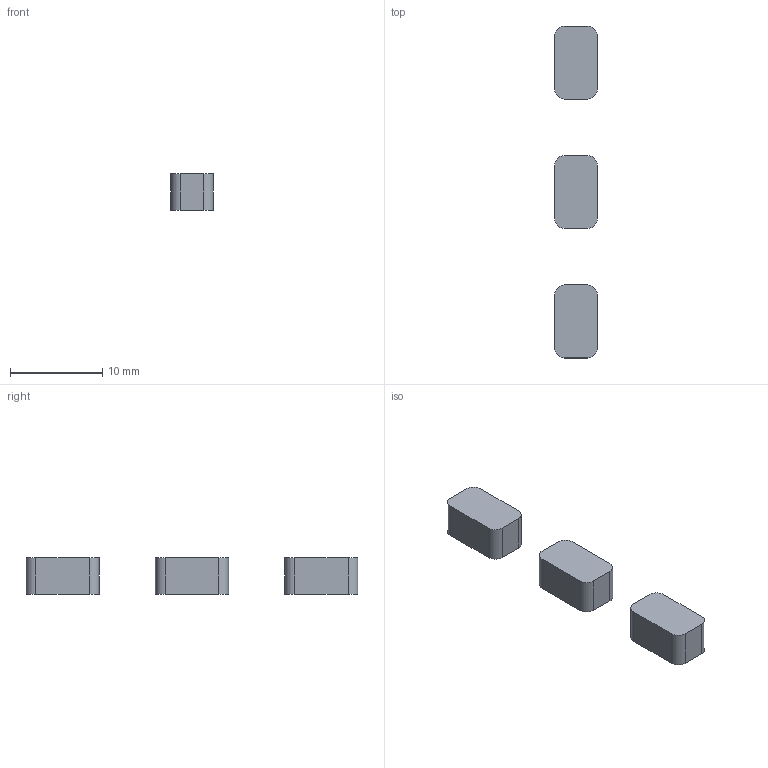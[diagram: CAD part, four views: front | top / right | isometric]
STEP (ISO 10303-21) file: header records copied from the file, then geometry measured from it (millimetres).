
FILE_DESCRIPTION(('Open CASCADE Model'),'2;1');
FILE_NAME('Open CASCADE Shape Model','2026-11-21T14:29:37',('Author'),( 'Open CASCADE'),'Open CASCADE STEP processor 7.9','Open CASCADE 7.9' ,'Unknown');
FILE_SCHEMA(('AUTOMOTIVE_DESIGN { 1 0 10303 214 1 1 1 1 }'));
Length unit declared in the file: millimetre
Products named in the file (3): Side_buttons; Record cap; Mix and play caps
Assembly tree (2 placements, depth 2):
  Side_buttons
    Record cap
    Mix and play caps
Bounding box: 4.6 x 35.9 x 3.9 mm (x, y, z)
Volume: 414.1 mm3; surface area: 483.8 mm2
Topology: 3 solids, 3 shells, 30 faces, 72 edges, 48 vertices
Faces by surface type: plane 18, cylinder 12
Entity records: 1919 total; most frequent: CARTESIAN_POINT 369, DIRECTION 294, LINE 168, VECTOR 168, ORIENTED_EDGE 144, PCURVE 144, DEFINITIONAL_REPRESENTATION 144, EDGE_CURVE 72
